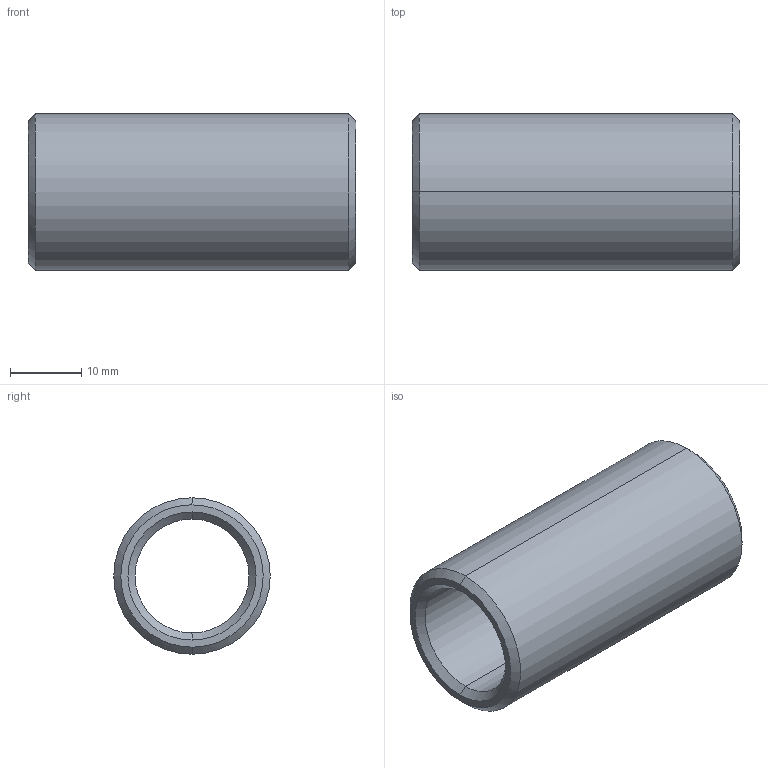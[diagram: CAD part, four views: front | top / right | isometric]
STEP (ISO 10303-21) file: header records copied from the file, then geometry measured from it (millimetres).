
FILE_DESCRIPTION(('CATIA V5 STEP Exchange'),'2;1');
FILE_NAME('C:\Users\Utente\Desktop\IO LAVORO\3D X SITO CF\X SITO\PLASTICA\352\352-16X46.stp','2021-04-10T09:05:02+00:00',('none'),('none'),'CATIA Version 5 Release 20 GA (IN-10)','CATIA V5 STEP AP203','none');
FILE_SCHEMA(('CONFIG_CONTROL_DESIGN'));
Length unit declared in the file: millimetre
Products named in the file (1): 352-16X46
Bounding box: 46 x 22 x 22 mm (x, y, z)
Volume: 8133 mm3; surface area: 5716.8 mm2
Topology: 1 solids, 1 shells, 14 faces, 44 edges, 32 vertices
Faces by surface type: cone 6, cylinder 4, plane 2, torus 2
Entity records: 634 total; most frequent: CARTESIAN_POINT 203, ORIENTED_EDGE 88, DIRECTION 64, EDGE_CURVE 44, AXIS2_PLACEMENT_3D 41, VERTEX_POINT 32, CIRCLE 26, EDGE_LOOP 16
